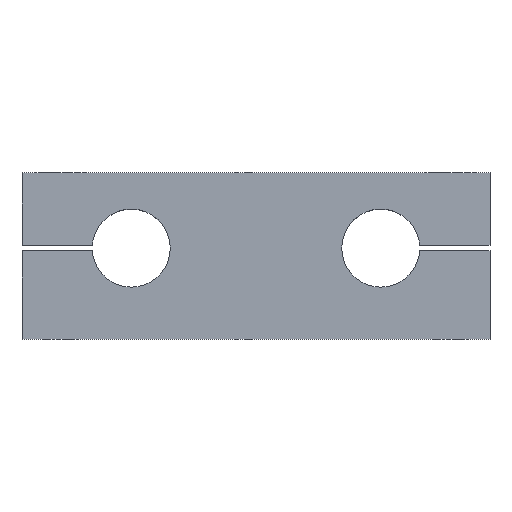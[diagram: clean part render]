
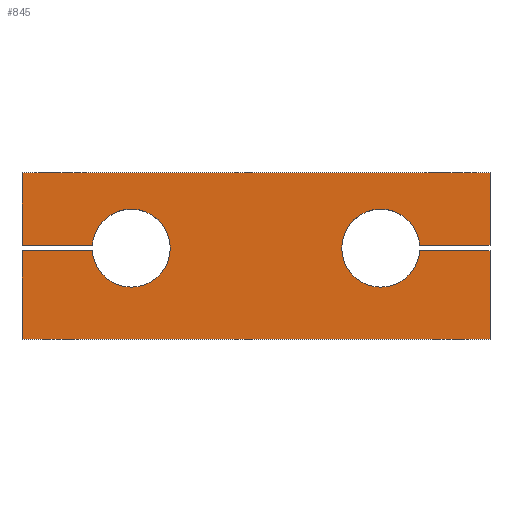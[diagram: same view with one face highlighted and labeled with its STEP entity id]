
A CAD part, top view. The second image highlights one B-rep face of the part: STEP entity #845.
In plain terms, the highlighted planar face has unit normal (0, 0, 1).
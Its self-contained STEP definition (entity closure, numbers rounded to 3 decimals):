
#7 = DIRECTION ( 'NONE',  ( 0., 1., 0. ) ) ;
#11 = VECTOR ( 'NONE', #7, 1000. ) ;
#14 = ORIENTED_EDGE ( 'NONE', *, *, #810, .T. ) ;
#27 = VECTOR ( 'NONE', #1046, 1000. ) ;
#33 = DIRECTION ( 'NONE',  ( 0., -1., 0. ) ) ;
#37 = VECTOR ( 'NONE', #554, 1000. ) ;
#82 = VERTEX_POINT ( 'NONE', #705 ) ;
#85 = LINE ( 'NONE', #425, #27 ) ;
#96 = CIRCLE ( 'NONE', #1103, 15. ) ;
#105 = DIRECTION ( 'NONE',  ( 1., 0., 0. ) ) ;
#118 = EDGE_CURVE ( 'NONE', #691, #370, #744, .T. ) ;
#128 = DIRECTION ( 'NONE',  ( -1., 0., 0. ) ) ;
#147 = EDGE_CURVE ( 'NONE', #387, #790, #629, .T. ) ;
#149 = VECTOR ( 'NONE', #33, 1000. ) ;
#154 = ORIENTED_EDGE ( 'NONE', *, *, #304, .T. ) ;
#156 = CARTESIAN_POINT ( 'NONE',  ( 90., 32., 12.5 ) ) ;
#158 = VERTEX_POINT ( 'NONE', #517 ) ;
#180 = CARTESIAN_POINT ( 'NONE',  ( 48., 3., 12.5 ) ) ;
#185 = DIRECTION ( 'NONE',  ( 1., 0., 0. ) ) ;
#207 = AXIS2_PLACEMENT_3D ( 'NONE', #180, #884, #105 ) ;
#213 = DIRECTION ( 'NONE',  ( 0., 0., 1. ) ) ;
#216 = DIRECTION ( 'NONE',  ( 0., 0., 1. ) ) ;
#221 = VECTOR ( 'NONE', #724, 1000. ) ;
#230 = CARTESIAN_POINT ( 'NONE',  ( -90., 1.925, 12.5 ) ) ;
#236 = CARTESIAN_POINT ( 'NONE',  ( 47., 1.925, 12.5 ) ) ;
#239 = ORIENTED_EDGE ( 'NONE', *, *, #147, .F. ) ;
#244 = DIRECTION ( 'NONE',  ( 1., 0., 0. ) ) ;
#250 = VERTEX_POINT ( 'NONE', #476 ) ;
#256 = LINE ( 'NONE', #156, #11 ) ;
#272 = ORIENTED_EDGE ( 'NONE', *, *, #1091, .T. ) ;
#289 = EDGE_CURVE ( 'NONE', #250, #691, #552, .T. ) ;
#290 = CARTESIAN_POINT ( 'NONE',  ( 90., 1.925, 12.5 ) ) ;
#302 = VERTEX_POINT ( 'NONE', #732 ) ;
#304 = EDGE_CURVE ( 'NONE', #863, #158, #306, .T. ) ;
#306 = LINE ( 'NONE', #721, #149 ) ;
#308 = CARTESIAN_POINT ( 'NONE',  ( -90., -32., 12.5 ) ) ;
#313 = EDGE_LOOP ( 'NONE', ( #345, #239, #946, #358, #154, #749, #320, #733, #761, #888, #349, #272, #14 ) ) ;
#315 = DIRECTION ( 'NONE',  ( 1., 0., 0. ) ) ;
#319 = CARTESIAN_POINT ( 'NONE',  ( -33., 3., 12.5 ) ) ;
#320 = ORIENTED_EDGE ( 'NONE', *, *, #677, .T. ) ;
#331 = CARTESIAN_POINT ( 'NONE',  ( -90., 32., 12.5 ) ) ;
#336 = CARTESIAN_POINT ( 'NONE',  ( -90., 32., 12.5 ) ) ;
#343 = LINE ( 'NONE', #236, #949 ) ;
#345 = ORIENTED_EDGE ( 'NONE', *, *, #988, .F. ) ;
#349 = ORIENTED_EDGE ( 'NONE', *, *, #696, .T. ) ;
#358 = ORIENTED_EDGE ( 'NONE', *, *, #577, .F. ) ;
#370 = VERTEX_POINT ( 'NONE', #547 ) ;
#378 = LINE ( 'NONE', #531, #221 ) ;
#387 = VERTEX_POINT ( 'NONE', #319 ) ;
#399 = FACE_OUTER_BOUND ( 'NONE', #313, .T. ) ;
#400 = VECTOR ( 'NONE', #128, 1000. ) ;
#413 = AXIS2_PLACEMENT_3D ( 'NONE', #1005, #216, #735 ) ;
#425 = CARTESIAN_POINT ( 'NONE',  ( 90., 32., 12.5 ) ) ;
#465 = CARTESIAN_POINT ( 'NONE',  ( 90., -32., 12.5 ) ) ;
#476 = CARTESIAN_POINT ( 'NONE',  ( 90., 4.075, 12.5 ) ) ;
#480 = VECTOR ( 'NONE', #1111, 1000. ) ;
#481 = DIRECTION ( 'NONE',  ( 1., 0., 0. ) ) ;
#495 = DIRECTION ( 'NONE',  ( -1., 0., 0. ) ) ;
#502 = VERTEX_POINT ( 'NONE', #336 ) ;
#511 = EDGE_CURVE ( 'NONE', #370, #803, #343, .T. ) ;
#517 = CARTESIAN_POINT ( 'NONE',  ( -90., -32., 12.5 ) ) ;
#531 = CARTESIAN_POINT ( 'NONE',  ( -90., 32., 12.5 ) ) ;
#547 = CARTESIAN_POINT ( 'NONE',  ( 62.961, 1.925, 12.5 ) ) ;
#552 = LINE ( 'NONE', #901, #400 ) ;
#554 = DIRECTION ( 'NONE',  ( 1., 0., 0. ) ) ;
#570 = LINE ( 'NONE', #662, #480 ) ;
#577 = EDGE_CURVE ( 'NONE', #863, #82, #640, .T. ) ;
#586 = VERTEX_POINT ( 'NONE', #465 ) ;
#594 = LINE ( 'NONE', #331, #993 ) ;
#629 = CIRCLE ( 'NONE', #725, 15. ) ;
#640 = LINE ( 'NONE', #230, #763 ) ;
#662 = CARTESIAN_POINT ( 'NONE',  ( -90., 4.075, 12.5 ) ) ;
#677 = EDGE_CURVE ( 'NONE', #586, #803, #256, .T. ) ;
#691 = VERTEX_POINT ( 'NONE', #843 ) ;
#696 = EDGE_CURVE ( 'NONE', #250, #963, #85, .T. ) ;
#700 = DIRECTION ( 'NONE',  ( 0., 0., 1. ) ) ;
#705 = CARTESIAN_POINT ( 'NONE',  ( -62.961, 1.925, 12.5 ) ) ;
#721 = CARTESIAN_POINT ( 'NONE',  ( -90., 32., 12.5 ) ) ;
#724 = DIRECTION ( 'NONE',  ( 0., -1., 0. ) ) ;
#725 = AXIS2_PLACEMENT_3D ( 'NONE', #887, #700, #185 ) ;
#729 = CARTESIAN_POINT ( 'NONE',  ( -90., 1.925, 12.5 ) ) ;
#732 = CARTESIAN_POINT ( 'NONE',  ( -90., 4.075, 12.5 ) ) ;
#733 = ORIENTED_EDGE ( 'NONE', *, *, #511, .F. ) ;
#735 = DIRECTION ( 'NONE',  ( 1., 0., 0. ) ) ;
#744 = CIRCLE ( 'NONE', #207, 15. ) ;
#749 = ORIENTED_EDGE ( 'NONE', *, *, #933, .T. ) ;
#761 = ORIENTED_EDGE ( 'NONE', *, *, #118, .F. ) ;
#763 = VECTOR ( 'NONE', #481, 1000. ) ;
#790 = VERTEX_POINT ( 'NONE', #883 ) ;
#803 = VERTEX_POINT ( 'NONE', #290 ) ;
#810 = EDGE_CURVE ( 'NONE', #502, #302, #378, .T. ) ;
#843 = CARTESIAN_POINT ( 'NONE',  ( 62.961, 4.075, 12.5 ) ) ;
#845 = ADVANCED_FACE ( 'NONE', ( #399 ), #911, .T. ) ;
#863 = VERTEX_POINT ( 'NONE', #729 ) ;
#871 = EDGE_CURVE ( 'NONE', #82, #387, #96, .T. ) ;
#883 = CARTESIAN_POINT ( 'NONE',  ( -62.961, 4.075, 12.5 ) ) ;
#884 = DIRECTION ( 'NONE',  ( 0., 0., 1. ) ) ;
#887 = CARTESIAN_POINT ( 'NONE',  ( -48., 3., 12.5 ) ) ;
#888 = ORIENTED_EDGE ( 'NONE', *, *, #289, .F. ) ;
#901 = CARTESIAN_POINT ( 'NONE',  ( 47., 4.075, 12.5 ) ) ;
#911 = PLANE ( 'NONE',  #413 ) ;
#921 = LINE ( 'NONE', #308, #37 ) ;
#933 = EDGE_CURVE ( 'NONE', #158, #586, #921, .T. ) ;
#946 = ORIENTED_EDGE ( 'NONE', *, *, #871, .F. ) ;
#949 = VECTOR ( 'NONE', #244, 1000. ) ;
#963 = VERTEX_POINT ( 'NONE', #1075 ) ;
#984 = CARTESIAN_POINT ( 'NONE',  ( -48., 3., 12.5 ) ) ;
#988 = EDGE_CURVE ( 'NONE', #790, #302, #570, .T. ) ;
#993 = VECTOR ( 'NONE', #495, 1000. ) ;
#1005 = CARTESIAN_POINT ( 'NONE',  ( 0., 0., 12.5 ) ) ;
#1046 = DIRECTION ( 'NONE',  ( 0., 1., 0. ) ) ;
#1075 = CARTESIAN_POINT ( 'NONE',  ( 90., 32., 12.5 ) ) ;
#1091 = EDGE_CURVE ( 'NONE', #963, #502, #594, .T. ) ;
#1103 = AXIS2_PLACEMENT_3D ( 'NONE', #984, #213, #315 ) ;
#1111 = DIRECTION ( 'NONE',  ( -1., 0., 0. ) ) ;
